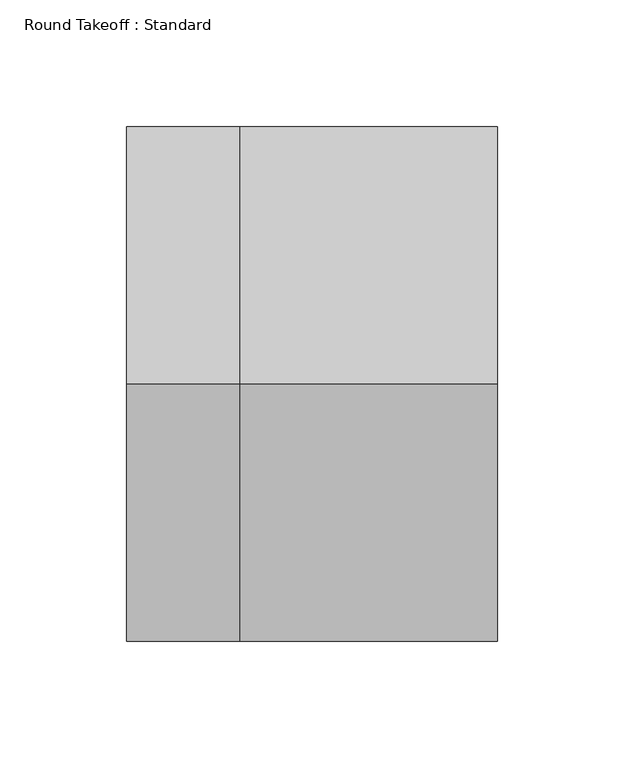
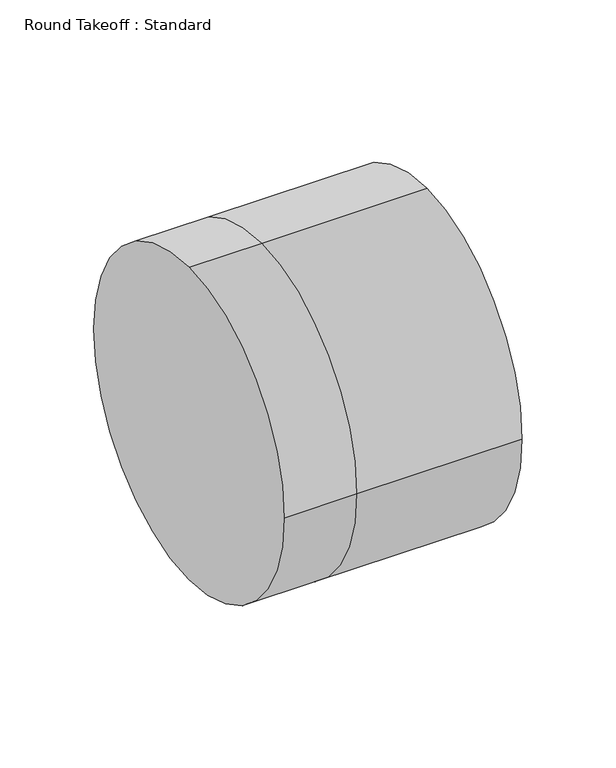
"""IFC4 building model written with IfcOpenShell, lengths in millimetres: duct fitting geometry, Round Takeoff : Standard."""

from ifc_helpers import new_model, si_unit, frame, origin, place, context, project, spatial, circle_curve, source, transform, mapped, element, save
from ifc_brep_helpers import plane_surface, cylinder_surface, advanced_brep


def round_takeoff_standard_a75a9c41(model_context):
    return source(origin(), model_context, "Body", "AdvancedBrep", [
        advanced_brep(
        [(101.6, 0.0, 101.6), (101.6, -101.6, 0.0), (101.6, 0.0, -101.6), (101.6, 101.6, 0.0), (0.0, 101.6, 0.0), (0.0, 0.0, 101.6), (0.0, 0.0, -101.6), (0.0, -101.6, 0.0), (-44.9037467, 0.0, 101.6), (-44.9037467, 101.6, 0.0), (-44.9037467, 0.0, -101.6), (-44.9037467, -101.6, 0.0)],
        [
            (0, 1, circle_curve(frame((101.6, 0.0, 0.0), z_axis=(1.0, 0.0, 0.0), x_axis=(0.0, 1.0, 0.0)), 101.6)),
            (1, 2, circle_curve(frame((101.6, 0.0, 0.0), z_axis=(1.0, 0.0, 0.0), x_axis=(0.0, 1.0, 0.0)), 101.6)),
            (2, 3, circle_curve(frame((101.6, 0.0, 0.0), z_axis=(1.0, 0.0, 0.0), x_axis=(0.0, 1.0, 0.0)), 101.6)),
            (3, 0, circle_curve(frame((101.6, 0.0, 0.0), z_axis=(1.0, 0.0, 0.0), x_axis=(0.0, 1.0, 0.0)), 101.6)),
            (3, 4),
            (4, 5, circle_curve(frame((0.0, 0.0, 0.0), z_axis=(1.0, 0.0, 0.0), x_axis=(0.0, 1.0, 0.0)), 101.6)),
            (5, 0),
            (2, 6),
            (6, 4, circle_curve(frame((0.0, 0.0, 0.0), z_axis=(1.0, 0.0, 0.0), x_axis=(0.0, 1.0, 0.0)), 101.6)),
            (1, 7),
            (7, 6, circle_curve(frame((0.0, 0.0, 0.0), z_axis=(1.0, 0.0, 0.0), x_axis=(0.0, 1.0, 0.0)), 101.6)),
            (5, 7, circle_curve(frame((0.0, 0.0, 0.0), z_axis=(1.0, 0.0, 0.0), x_axis=(0.0, 1.0, 0.0)), 101.6)),
            (8, 9, circle_curve(frame((-44.9037467, 0.0, 0.0), z_axis=(-1.0, 0.0, 0.0), x_axis=(0.0, 1.0, 0.0)), 101.6)),
            (9, 10, circle_curve(frame((-44.9037467, 0.0, 0.0), z_axis=(-1.0, 0.0, 0.0), x_axis=(0.0, 1.0, 0.0)), 101.6)),
            (10, 11, circle_curve(frame((-44.9037467, 0.0, 0.0), z_axis=(-1.0, 0.0, 0.0), x_axis=(0.0, 1.0, 0.0)), 101.6)),
            (11, 8, circle_curve(frame((-44.9037467, 0.0, 0.0), z_axis=(-1.0, 0.0, 0.0), x_axis=(0.0, 1.0, 0.0)), 101.6)),
            (8, 5),
            (4, 9),
            (6, 10),
            (7, 11),
        ],
        [
            plane_surface(frame((101.6, 0.0, 0.0), z_axis=(1.0, 0.0, 0.0), x_axis=(0.0, 0.0, 1.0))),
            cylinder_surface(frame((0.0, 0.0, 0.0), z_axis=(-1.0, 0.0, 0.0), x_axis=(0.0, 1.0, 0.0)), 101.6),
            plane_surface(frame((-44.9037467, 0.0, 0.0), z_axis=(-1.0, 0.0, 0.0), x_axis=(0.0, 0.0, 1.0))),
            cylinder_surface(frame((-44.9037467, 0.0, 0.0), z_axis=(-1.0, 0.0, 0.0), x_axis=(0.0, 1.0, 0.0)), 101.6),
        ],
        [
            (0, [[1, 2, 3, 4]]),
            (1, [[-4, 5, 6, 7]]),
            (1, [[-3, 8, 9, -5]]),
            (1, [[-2, 10, 11, -8]]),
            (1, [[-1, -7, 12, -10]]),
            (2, [[13, 14, 15, 16]]),
            (3, [[-13, 17, -6, 18]]),
            (3, [[-14, -18, -9, 19]]),
            (3, [[-15, -19, -11, 20]]),
            (3, [[-16, -20, -12, -17]]),
        ],
    ),
    ])


if __name__ == "__main__":
    model = new_model("IFC4")
    model_context = context("Model", 3, world=origin())
    ifc_project = project(units=[si_unit("LENGTHUNIT", "METRE", prefix="MILLI")], contexts=[model_context])
    site = spatial("IfcSite", under=ifc_project)
    building = spatial("IfcBuilding", under=site)
    placement = place(None, origin())
    round_takeoff_standard_shape = round_takeoff_standard_a75a9c41(model_context)
    element("IfcDuctFitting", 1, ObjectType="Round Takeoff : Standard", at=placement, inside=building, context=model_context, shape_type="MappedRepresentation", body=[
        mapped(round_takeoff_standard_shape, transform((0.0, 0.0, 0.0), x_axis=(1.0, 0.0, 0.0), y_axis=(0.0, 1.0, 0.0), z_axis=(0.0, 0.0, 1.0))),
    ])
    save(model, "model.ifc")
